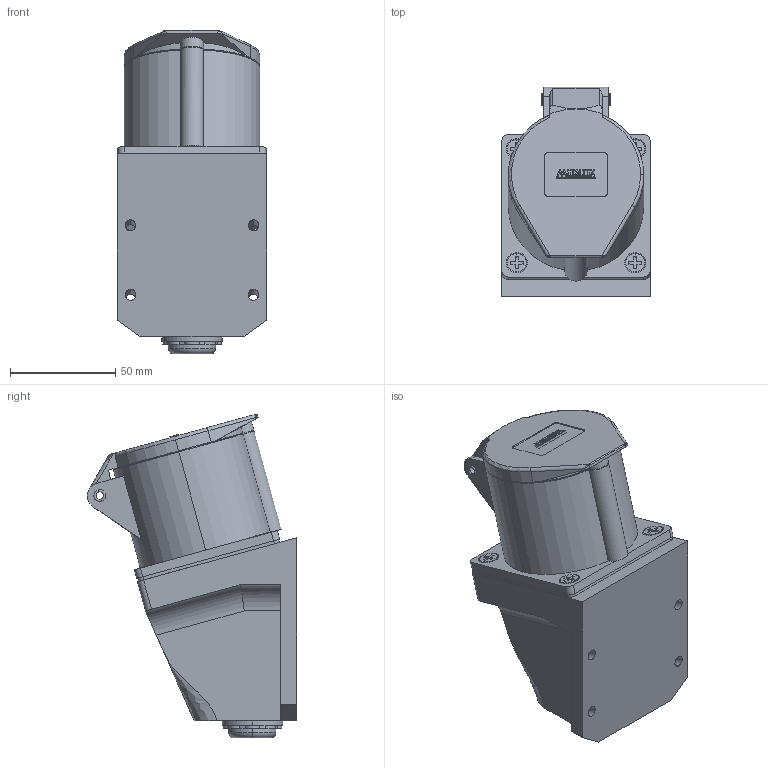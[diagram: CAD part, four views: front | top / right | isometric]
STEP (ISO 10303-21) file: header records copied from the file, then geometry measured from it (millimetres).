
FILE_DESCRIPTION (( 'STEP AP203' ), '1' );
FILE_NAME ('TLS32432..STEP', '2018-04-20T14:15:37', ( '' ), ( '' ), 'SwSTEP 2.0', 'SolidWorks 2012', '' );
FILE_SCHEMA (( 'CONFIG_CONTROL_DESIGN' ));
Length unit declared in the file: millimetre
Products named in the file (6): TLS32432.; TLS32432; TLR32432; METALTEX 18,98; TL
Assembly tree (5 placements, depth 4):
  TLS32432.
    TLS32432
      TL
      TLR32432
        TLR32432
        METALTEX 18,98
Bounding box: 71 x 99.64 x 153.99 mm (x, y, z)
Volume: 530125.5 mm3; surface area: 64843.8 mm2
Topology: 9 solids, 9 shells, 529 faces, 1328 edges, 867 vertices
Faces by surface type: plane 312, cylinder 178, cone 18, torus 17, bspline 4
Entity records: 16971 total; most frequent: CARTESIAN_POINT 3443, DIRECTION 2700, ORIENTED_EDGE 2648, EDGE_CURVE 1324, AXIS2_PLACEMENT_3D 903, VECTOR 894, LINE 894, VERTEX_POINT 867
